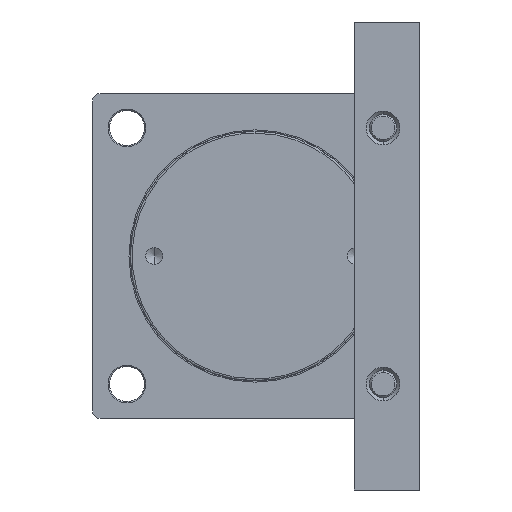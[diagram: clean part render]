
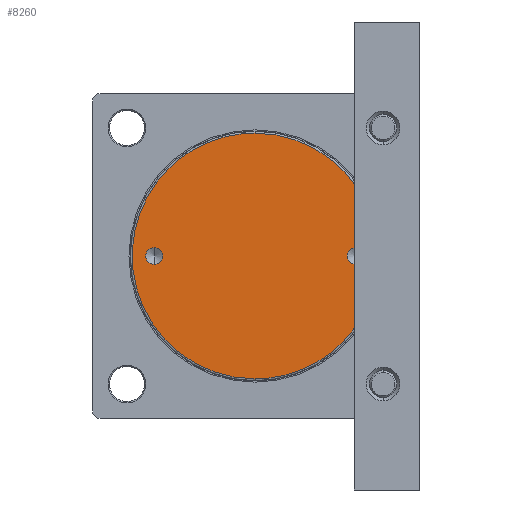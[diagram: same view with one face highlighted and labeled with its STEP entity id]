
A CAD part, left-side view. The second image highlights one B-rep face of the part: STEP entity #8260.
In plain terms, the highlighted planar face has unit normal (-1, 0, 0).
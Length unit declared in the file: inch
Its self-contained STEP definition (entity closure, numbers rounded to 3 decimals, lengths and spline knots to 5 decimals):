
#274 = VERTEX_POINT ( 'NONE', #22390 ) ;
#2932 = CARTESIAN_POINT ( 'NONE',  ( -1.43701, 7.44094, -3.72047 ) ) ;
#3035 = CARTESIAN_POINT ( 'NONE',  ( -1.43701, 3.05118, -0.25591 ) ) ;
#3168 = CARTESIAN_POINT ( 'NONE',  ( -1.43701, 0., 3.72047 ) ) ;
#3415 = ORIENTED_EDGE ( 'NONE', *, *, #13719, .F. ) ;
#5448 = VERTEX_POINT ( 'NONE', #11275 ) ;
#5479 = ORIENTED_EDGE ( 'NONE', *, *, #20199, .F. ) ;
#5884 = CARTESIAN_POINT ( 'NONE',  ( -1.43701, 0., -3.72047 ) ) ;
#5968 = AXIS2_PLACEMENT_3D ( 'NONE', #21235, #21207, #21192 ) ;
#6134 = DIRECTION ( 'NONE',  ( 0., 0., 1. ) ) ;
#6348 = DIRECTION ( 'NONE',  ( -1., 0., 0. ) ) ;
#6480 = EDGE_LOOP ( 'NONE', ( #3415, #12793 ) ) ;
#6806 = DIRECTION ( 'NONE',  ( -1., 0., 0. ) ) ;
#7299 = ORIENTED_EDGE ( 'NONE', *, *, #15565, .F. ) ;
#7391 = VERTEX_POINT ( 'NONE', #19761 ) ;
#7613 = EDGE_LOOP ( 'NONE', ( #18147, #21441 ) ) ;
#7654 = AXIS2_PLACEMENT_3D ( 'NONE', #17345, #6348, #7888 ) ;
#7888 = DIRECTION ( 'NONE',  ( 0., 0., 1. ) ) ;
#7984 = AXIS2_PLACEMENT_3D ( 'NONE', #12742, #6806, #6134 ) ;
#8260 = ADVANCED_FACE ( 'NONE', ( #12980, #10503, #12095 ), #13590, .F. ) ;
#10503 = FACE_BOUND ( 'NONE', #23488, .T. ) ;
#10788 = CIRCLE ( 'NONE', #7654, 0.25591 ) ;
#11275 = CARTESIAN_POINT ( 'NONE',  ( -1.43701, -3.05118, 0.25591 ) ) ;
#12095 = FACE_OUTER_BOUND ( 'NONE', #7613, .T. ) ;
#12700 = CIRCLE ( 'NONE', #5968, 0.25591 ) ;
#12742 = CARTESIAN_POINT ( 'NONE',  ( -1.43701, -3.05118, 0. ) ) ;
#12793 = ORIENTED_EDGE ( 'NONE', *, *, #22045, .F. ) ;
#12980 = FACE_BOUND ( 'NONE', #6480, .T. ) ;
#13374 = DIRECTION ( 'NONE',  ( 0., 0., -1. ) ) ;
#13435 = DIRECTION ( 'NONE',  ( 1., 0., 0. ) ) ;
#13518 = CARTESIAN_POINT ( 'NONE',  ( -1.43701, 0., 0. ) ) ;
#13548 = EDGE_CURVE ( 'NONE', #21689, #7391, #22874, .T. ) ;
#13590 = PLANE ( 'NONE',  #14478 ) ;
#13719 = EDGE_CURVE ( 'NONE', #274, #22403, #21875, .T. ) ;
#13734 = VERTEX_POINT ( 'NONE', #19553 ) ;
#14478 = AXIS2_PLACEMENT_3D ( 'NONE', #13518, #13435, #13374 ) ;
#15565 = EDGE_CURVE ( 'NONE', #13734, #5448, #19200, .T. ) ;
#16761 = CARTESIAN_POINT ( 'NONE',  ( -1.43701, 0., 3.72047 ) ) ;
#17345 = CARTESIAN_POINT ( 'NONE',  ( -1.43701, 3.05118, 0. ) ) ;
#18147 = ORIENTED_EDGE ( 'NONE', *, *, #20057, .F. ) ;
#18472 = AXIS2_PLACEMENT_3D ( 'NONE', #19664, #19637, #19610 ) ;
#19200 = CIRCLE ( 'NONE', #7984, 0.25591 ) ;
#19231 =( BOUNDED_CURVE ( )  B_SPLINE_CURVE ( 3, ( #5884, #2932, #20571, #16761 ),
 .UNSPECIFIED., .F., .F. ) 
 B_SPLINE_CURVE_WITH_KNOTS ( ( 4, 4 ),
 ( 0., 1. ),
 .UNSPECIFIED. ) 
 CURVE ( )  GEOMETRIC_REPRESENTATION_ITEM ( )  RATIONAL_B_SPLINE_CURVE ( ( 1., 0.333, 0.333, 1. ) ) 
 REPRESENTATION_ITEM ( '' )  );
#19553 = CARTESIAN_POINT ( 'NONE',  ( -1.43701, -3.05118, -0.25591 ) ) ;
#19610 = DIRECTION ( 'NONE',  ( 0., 0., 1. ) ) ;
#19637 = DIRECTION ( 'NONE',  ( -1., 0., 0. ) ) ;
#19664 = CARTESIAN_POINT ( 'NONE',  ( -1.43701, 3.05118, 0. ) ) ;
#19761 = CARTESIAN_POINT ( 'NONE',  ( -1.43701, 0., -3.72047 ) ) ;
#20057 = EDGE_CURVE ( 'NONE', #7391, #21689, #19231, .T. ) ;
#20199 = EDGE_CURVE ( 'NONE', #5448, #13734, #12700, .T. ) ;
#20571 = CARTESIAN_POINT ( 'NONE',  ( -1.43701, 7.44094, 3.72047 ) ) ;
#21192 = DIRECTION ( 'NONE',  ( 0., 0., 1. ) ) ;
#21207 = DIRECTION ( 'NONE',  ( -1., 0., 0. ) ) ;
#21235 = CARTESIAN_POINT ( 'NONE',  ( -1.43701, -3.05118, 0. ) ) ;
#21441 = ORIENTED_EDGE ( 'NONE', *, *, #13548, .F. ) ;
#21689 = VERTEX_POINT ( 'NONE', #3168 ) ;
#21875 = CIRCLE ( 'NONE', #18472, 0.25591 ) ;
#22045 = EDGE_CURVE ( 'NONE', #22403, #274, #10788, .T. ) ;
#22390 = CARTESIAN_POINT ( 'NONE',  ( -1.43701, 3.05118, 0.25591 ) ) ;
#22403 = VERTEX_POINT ( 'NONE', #3035 ) ;
#22605 = CARTESIAN_POINT ( 'NONE',  ( -1.43701, 0., -3.72047 ) ) ;
#22633 = CARTESIAN_POINT ( 'NONE',  ( -1.43701, -7.44094, -3.72047 ) ) ;
#22719 = CARTESIAN_POINT ( 'NONE',  ( -1.43701, -7.44094, 3.72047 ) ) ;
#22739 = CARTESIAN_POINT ( 'NONE',  ( -1.43701, 0., 3.72047 ) ) ;
#22874 =( BOUNDED_CURVE ( )  B_SPLINE_CURVE ( 3, ( #22739, #22719, #22633, #22605 ),
 .UNSPECIFIED., .F., .F. ) 
 B_SPLINE_CURVE_WITH_KNOTS ( ( 4, 4 ),
 ( 0., 1. ),
 .UNSPECIFIED. ) 
 CURVE ( )  GEOMETRIC_REPRESENTATION_ITEM ( )  RATIONAL_B_SPLINE_CURVE ( ( 1., 0.333, 0.333, 1. ) ) 
 REPRESENTATION_ITEM ( '' )  );
#23488 = EDGE_LOOP ( 'NONE', ( #5479, #7299 ) ) ;
